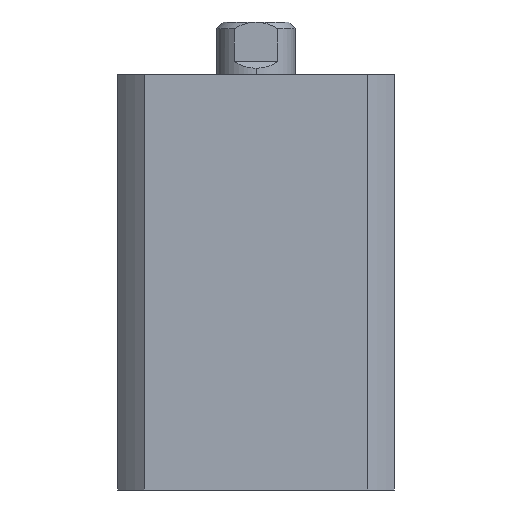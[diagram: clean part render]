
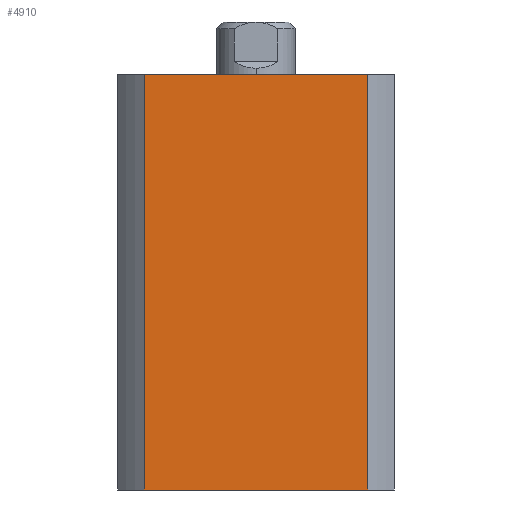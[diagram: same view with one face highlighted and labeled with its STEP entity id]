
A CAD part, left-side view. The second image highlights one B-rep face of the part: STEP entity #4910.
In plain terms, the highlighted planar face has unit normal (-1, 0, 0).
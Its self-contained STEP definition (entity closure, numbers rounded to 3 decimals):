
#192 = CARTESIAN_POINT ( 'NONE',  ( -21., -16.971, 63. ) ) ;
#199 = CARTESIAN_POINT ( 'NONE',  ( -21., 16.971, 63. ) ) ;
#205 = CARTESIAN_POINT ( 'NONE',  ( -21., -16.971, 0. ) ) ;
#211 = CARTESIAN_POINT ( 'NONE',  ( -21., 16.971, 0. ) ) ;
#1127 = FACE_OUTER_BOUND ( 'NONE', #1730, .T. ) ;
#1730 = EDGE_LOOP ( 'NONE', ( #4669, #4690, #4691, #4689 ) ) ;
#1898 = VERTEX_POINT ( 'NONE', #211 ) ;
#1904 = VERTEX_POINT ( 'NONE', #205 ) ;
#1910 = VERTEX_POINT ( 'NONE', #199 ) ;
#1917 = VERTEX_POINT ( 'NONE', #192 ) ;
#2615 = DIRECTION ( 'NONE',  ( 0., 0., 1. ) ) ;
#2616 = CARTESIAN_POINT ( 'NONE',  ( -21., 16.971, 63. ) ) ;
#2617 = DIRECTION ( 'NONE',  ( 0., 0., -1. ) ) ;
#2619 = CARTESIAN_POINT ( 'NONE',  ( -21., -16.971, 63. ) ) ;
#2647 = CARTESIAN_POINT ( 'NONE',  ( -21., 21., 63. ) ) ;
#2655 = DIRECTION ( 'NONE',  ( 0., -1., 0. ) ) ;
#2854 = CARTESIAN_POINT ( 'NONE',  ( -21., 21., 0. ) ) ;
#2876 = DIRECTION ( 'NONE',  ( 0., -1., 0. ) ) ;
#3123 = EDGE_CURVE ( 'NONE', #1898, #1904, #4565, .T. ) ;
#3161 = EDGE_CURVE ( 'NONE', #1910, #1917, #4503, .T. ) ;
#3169 = EDGE_CURVE ( 'NONE', #1917, #1904, #4487, .T. ) ;
#3170 = EDGE_CURVE ( 'NONE', #1898, #1910, #4485, .T. ) ;
#3421 = AXIS2_PLACEMENT_3D ( 'NONE', #4197, #4192, #4191 ) ;
#4191 = DIRECTION ( 'NONE',  ( 0., 1., 0. ) ) ;
#4192 = DIRECTION ( 'NONE',  ( 1., 0., 0. ) ) ;
#4195 = PLANE ( 'NONE',  #3421 ) ;
#4197 = CARTESIAN_POINT ( 'NONE',  ( -21., 21., 63. ) ) ;
#4482 = VECTOR ( 'NONE', #2615, 1000. ) ;
#4484 = VECTOR ( 'NONE', #2617, 1000. ) ;
#4485 = LINE ( 'NONE', #2616, #4482 ) ;
#4487 = LINE ( 'NONE', #2619, #4484 ) ;
#4498 = VECTOR ( 'NONE', #2655, 1000. ) ;
#4503 = LINE ( 'NONE', #2647, #4498 ) ;
#4541 = VECTOR ( 'NONE', #2876, 1000. ) ;
#4565 = LINE ( 'NONE', #2854, #4541 ) ;
#4669 = ORIENTED_EDGE ( 'NONE', *, *, #3169, .F. ) ;
#4689 = ORIENTED_EDGE ( 'NONE', *, *, #3123, .T. ) ;
#4690 = ORIENTED_EDGE ( 'NONE', *, *, #3161, .F. ) ;
#4691 = ORIENTED_EDGE ( 'NONE', *, *, #3170, .F. ) ;
#4910 = ADVANCED_FACE ( 'NONE', ( #1127 ), #4195, .F. ) ;
